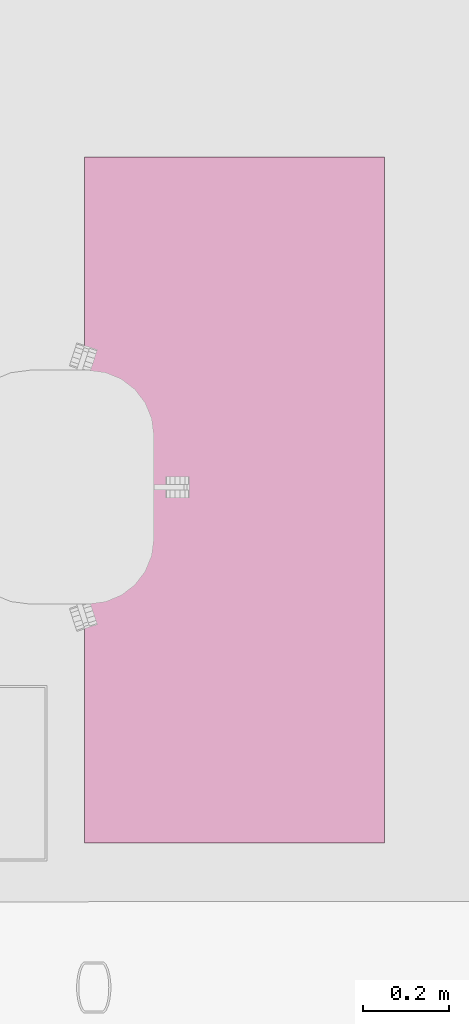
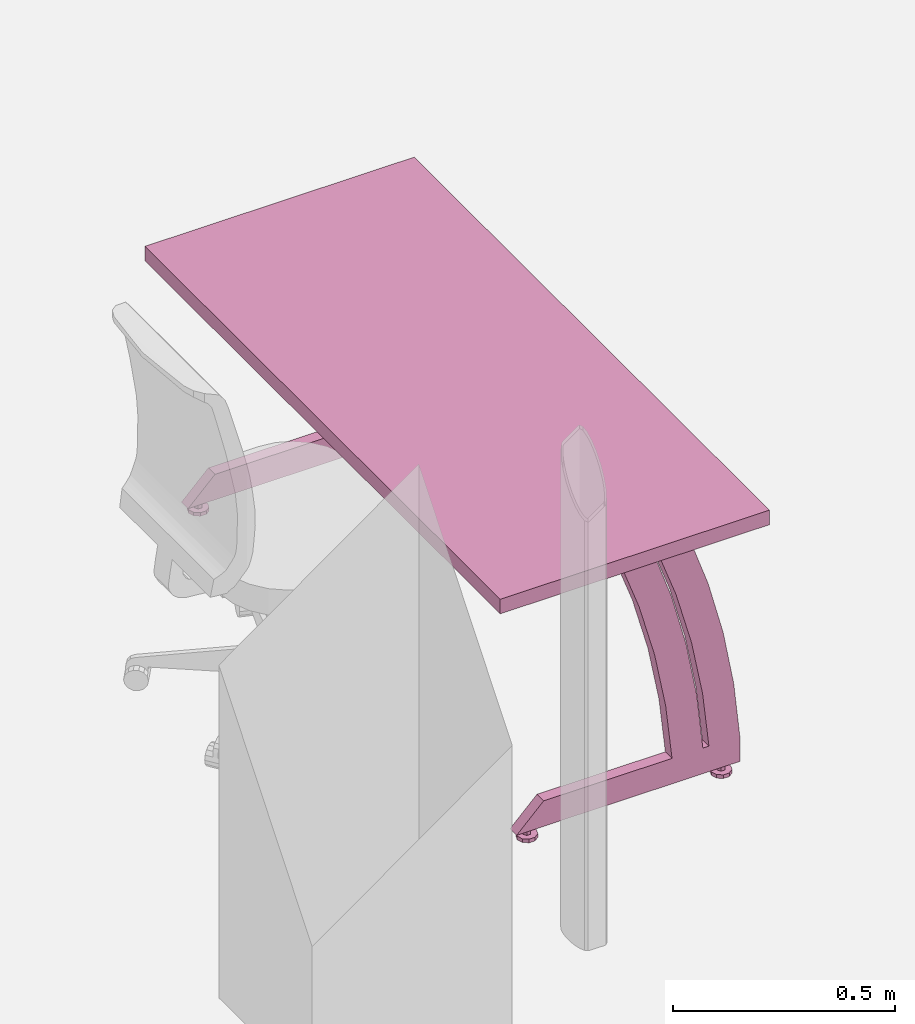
# One storey, part 104 of 128: 1 furnishing.
"""IFC2X3 building model written with IfcOpenShell, lengths in metres."""

from ifc_helpers import new_model, entity, si_unit, converted_unit, derived_unit, direction, frame, origin, place, context, subcontext, project, spatial, faceted_brep, source, transform, mapped, material, type_object, type_shapes, element, save


model = new_model("IFC2X3")

# Units and contexts
model_context = context("Model", 3, precision=1e-05, world=origin(), true_north=direction((6.123031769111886e-17, 1.0)))
body_context = subcontext(model_context, "Body", "Model", "MODEL_VIEW")
ifc_project = project(units=[si_unit("LENGTHUNIT", "METRE"), si_unit("AREAUNIT", "SQUARE_METRE"), converted_unit("PLANEANGLEUNIT", "DEGREE", entity("IfcPlaneAngleMeasure", 0.017453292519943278), si_unit("PLANEANGLEUNIT", "RADIAN"), dimensions=[0, 0, 0, 0, 0, 0, 0]), derived_unit("THERMALTRANSMITTANCEUNIT", [(si_unit("MASSUNIT", "GRAM", prefix="KILO"), 1), (si_unit("THERMODYNAMICTEMPERATUREUNIT", "KELVIN"), -1), (si_unit("TIMEUNIT", "SECOND"), -3)])], contexts=[model_context])

# Site, building, storey
site_placement = place(None, origin())
site = spatial("IfcSite", under=ifc_project, at=site_placement, Name="Default", CompositionType="ELEMENT")
building_placement = place(site_placement, origin())
building = spatial("IfcBuilding", under=site, at=building_placement, CompositionType="ELEMENT")
storey_placement = place(building_placement, origin())
storey = spatial("IfcBuildingStorey", under=building, at=storey_placement, Name="00_RDC CAF", CompositionType="ELEMENT", Elevation=2.4982504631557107e-13)

# Furnishing
ifc_material = material(Name="ARC - Mo - Blanc")
furniture_type = type_object("IfcFurnitureType", Name="Mo_Bureau:Mo_Bureau_1600x700mm", AssemblyPlace="NOTDEFINED", material=ifc_material)
shared_shape = source(origin(), body_context, "Body", "Brep", [
    faceted_brep([(0.0599999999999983, -0.5962325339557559, 0.0), (0.03622358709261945, -0.5885071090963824, 0.0), (0.040764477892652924, -0.5822571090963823, 0.0), (0.04530536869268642, -0.5760071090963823, 0.0), (0.0526526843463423, -0.5736198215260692, 0.0), (0.059999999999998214, -0.571232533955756, 0.0), (0.06734731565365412, -0.573619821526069, 0.0), (0.036223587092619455, -0.596232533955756, 0.0), (0.03622358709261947, -0.6039579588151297, 0.0), (0.040764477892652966, -0.6102079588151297, 0.0), (0.045305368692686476, -0.6164579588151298, 0.0), (0.052652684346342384, -0.6188452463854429, 0.0), (0.0599999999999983, -0.621232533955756, 0.0), (0.07469463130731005, -0.5760071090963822, 0.0), (0.07923552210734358, -0.5822571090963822, 0.0), (0.0837764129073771, -0.5885071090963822, 0.0), (0.08377641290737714, -0.5962325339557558, 0.0), (0.06734731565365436, -0.6188452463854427, 0.0), (0.07469463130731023, -0.6164579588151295, 0.0), (0.07923552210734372, -0.6102079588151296, 0.0), (0.08377641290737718, -0.6039579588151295, 0.0), (0.0599999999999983, -0.5962325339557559, 0.024999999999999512), (0.05999999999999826, -0.5862325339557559, 0.024999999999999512), (0.05133974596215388, -0.5912325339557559, 0.024999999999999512), (0.05133974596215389, -0.6012325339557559, 0.024999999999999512), (0.0599999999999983, -0.606232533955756, 0.024999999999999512), (0.06866025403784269, -0.5912325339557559, 0.024999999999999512), (0.06866025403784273, -0.6012325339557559, 0.024999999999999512), (0.05133974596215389, -0.6012325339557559, 0.01000000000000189), (0.0599999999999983, -0.606232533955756, 0.01000000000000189), (0.05133974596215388, -0.5912325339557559, 0.01000000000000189), (0.05999999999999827, -0.5862325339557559, 0.01000000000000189), (0.06866025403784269, -0.5912325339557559, 0.01000000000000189), (0.06866025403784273, -0.6012325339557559, 0.01000000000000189), (0.05999999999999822, -0.571232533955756, 0.01000000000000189), (0.05554606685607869, -0.57267970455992, 0.01000000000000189), (0.05109213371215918, -0.574126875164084, 0.01000000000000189), (0.04530536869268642, -0.5760071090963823, 0.01000000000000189), (0.06734731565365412, -0.573619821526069, 0.01000000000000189), (0.07469463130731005, -0.5760071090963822, 0.01000000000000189), (0.07923552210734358, -0.5822571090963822, 0.01000000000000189), (0.0837764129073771, -0.5885071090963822, 0.01000000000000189), (0.08377641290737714, -0.5962325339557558, 0.01000000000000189), (0.08377641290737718, -0.6039579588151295, 0.01000000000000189), (0.07923552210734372, -0.6102079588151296, 0.01000000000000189), (0.07469463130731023, -0.6164579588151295, 0.01000000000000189), (0.06890786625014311, -0.6183381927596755, 0.01000000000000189), (0.06445393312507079, -0.6197853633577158, 0.01000000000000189), (0.0599999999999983, -0.621232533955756, 0.01000000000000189), (0.052652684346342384, -0.6188452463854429, 0.01000000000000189), (0.045305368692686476, -0.6164579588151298, 0.01000000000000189), (0.03622358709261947, -0.6039579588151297, 0.01000000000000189), (0.04076447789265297, -0.6102079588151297, 0.01000000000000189), (0.04076447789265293, -0.5822571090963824, 0.01000000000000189), (0.03622358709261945, -0.5885071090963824, 0.01000000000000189), (0.03622358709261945, -0.5962325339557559, 0.01000000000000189)], [[[0, 1, 2]], [[0, 2, 3]], [[0, 3, 4]], [[0, 4, 5]], [[0, 5, 6]], [[0, 7, 1]], [[0, 8, 7]], [[0, 9, 8]], [[0, 10, 9]], [[0, 11, 10]], [[0, 12, 11]], [[0, 6, 13]], [[0, 13, 14]], [[0, 14, 15]], [[0, 15, 16]], [[0, 17, 12]], [[0, 18, 17]], [[0, 19, 18]], [[0, 20, 19]], [[0, 16, 20]], [[21, 22, 23]], [[23, 24, 21]], [[24, 25, 21]], [[21, 26, 22]], [[25, 27, 21]], [[26, 21, 27]], [[25, 24, 28, 29]], [[24, 23, 30, 28]], [[23, 22, 31, 30]], [[22, 26, 32, 31]], [[26, 27, 33, 32]], [[27, 25, 29, 33]], [[31, 34, 35]], [[31, 35, 36]], [[31, 36, 37]], [[31, 37, 30]], [[31, 38, 34]], [[31, 39, 38]], [[32, 39, 31]], [[32, 40, 39]], [[32, 41, 40]], [[32, 42, 41]], [[32, 43, 42]], [[32, 33, 43]], [[33, 44, 43]], [[33, 45, 44]], [[33, 29, 45]], [[29, 46, 45]], [[29, 47, 46]], [[29, 48, 47]], [[29, 49, 48]], [[29, 50, 49]], [[29, 28, 50]], [[30, 51, 28]], [[28, 51, 52]], [[28, 52, 50]], [[30, 37, 53]], [[30, 53, 54]], [[30, 54, 55]], [[30, 55, 51]], [[11, 12, 48, 49, 50, 10]], [[8, 9, 10, 50, 52, 51]], [[7, 8, 51, 55, 54, 1]], [[3, 37, 36, 35, 34, 5, 4]], [[54, 53, 37, 3, 2, 1]], [[6, 5, 34, 38, 39, 13]], [[15, 14, 13, 39, 40, 41]], [[16, 15, 41, 42, 43, 20]], [[18, 45, 46, 47, 48, 12, 17]], [[43, 44, 45, 18, 19, 20]]]),
    faceted_brep([(0.0599999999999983, -0.09132706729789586, 0.0), (0.03622358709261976, -0.08360164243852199, 0.0), (0.04076447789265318, -0.07735164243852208, 0.0), (0.045305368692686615, -0.07110164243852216, 0.0), (0.05265268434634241, -0.06871435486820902, 0.0), (0.059999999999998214, -0.06632706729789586, 0.0), (0.06734731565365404, -0.06871435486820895, 0.0), (0.03622358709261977, -0.09132706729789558, 0.0), (0.03622358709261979, -0.09905249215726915, 0.0), (0.040764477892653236, -0.10530249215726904, 0.0), (0.045305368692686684, -0.11155249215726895, 0.0), (0.05265268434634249, -0.11393977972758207, 0.0), (0.0599999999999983, -0.11632706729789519, 0.0), (0.07469463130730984, -0.07110164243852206, 0.0), (0.0792355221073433, -0.07735164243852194, 0.0), (0.08377641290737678, -0.08360164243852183, 0.0), (0.08377641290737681, -0.09132706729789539, 0.0), (0.06734731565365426, -0.11393977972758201, 0.0), (0.07469463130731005, -0.11155249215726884, 0.0), (0.07923552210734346, -0.1053024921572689, 0.0), (0.08377641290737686, -0.09905249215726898, 0.0), (0.0599999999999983, -0.09132706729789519, 0.024999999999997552), (0.05999999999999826, -0.08132706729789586, 0.024999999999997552), (0.051339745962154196, -0.08632706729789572, 0.024999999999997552), (0.05133974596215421, -0.09632706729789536, 0.024999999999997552), (0.0599999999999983, -0.10132706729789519, 0.024999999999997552), (0.06866025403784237, -0.08632706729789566, 0.024999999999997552), (0.06866025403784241, -0.09632706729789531, 0.024999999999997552), (0.05133974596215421, -0.09632706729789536, 0.009999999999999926), (0.0599999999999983, -0.10132706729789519, 0.009999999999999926), (0.051339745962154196, -0.08632706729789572, 0.009999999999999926), (0.05999999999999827, -0.08132706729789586, 0.009999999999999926), (0.06866025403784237, -0.08632706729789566, 0.009999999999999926), (0.06866025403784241, -0.09632706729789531, 0.009999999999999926), (0.059999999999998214, -0.06632706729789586, 0.009999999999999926), (0.05554606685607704, -0.06777423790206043, 0.009999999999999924), (0.05109213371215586, -0.06922140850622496, 0.009999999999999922), (0.045305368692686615, -0.07110164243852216, 0.009999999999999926), (0.06734731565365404, -0.06871435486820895, 0.009999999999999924), (0.07469463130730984, -0.07110164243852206, 0.009999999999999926), (0.0792355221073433, -0.07735164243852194, 0.009999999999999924), (0.08377641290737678, -0.08360164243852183, 0.009999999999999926), (0.08377641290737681, -0.0913270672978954, 0.009999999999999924), (0.08377641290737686, -0.09905249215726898, 0.009999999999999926), (0.07923552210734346, -0.1053024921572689, 0.009999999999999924), (0.07469463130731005, -0.11155249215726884, 0.009999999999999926), (0.06890786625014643, -0.11343272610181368, 0.009999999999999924), (0.06445393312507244, -0.11487989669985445, 0.009999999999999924), (0.0599999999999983, -0.11632706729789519, 0.009999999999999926), (0.05265268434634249, -0.11393977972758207, 0.009999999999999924), (0.045305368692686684, -0.11155249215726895, 0.009999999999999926), (0.03622358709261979, -0.09905249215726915, 0.009999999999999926), (0.040764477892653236, -0.10530249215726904, 0.009999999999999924), (0.04076447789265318, -0.07735164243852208, 0.009999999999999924), (0.03622358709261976, -0.08360164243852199, 0.009999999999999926), (0.03622358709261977, -0.09132706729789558, 0.009999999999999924)], [[[0, 1, 2]], [[0, 2, 3]], [[0, 3, 4]], [[0, 4, 5]], [[0, 5, 6]], [[0, 7, 1]], [[0, 8, 7]], [[0, 9, 8]], [[0, 10, 9]], [[0, 11, 10]], [[0, 12, 11]], [[0, 6, 13]], [[0, 13, 14]], [[0, 14, 15]], [[0, 15, 16]], [[0, 17, 12]], [[0, 18, 17]], [[0, 19, 18]], [[0, 20, 19]], [[0, 16, 20]], [[21, 22, 23]], [[23, 24, 21]], [[24, 25, 21]], [[21, 26, 22]], [[25, 27, 21]], [[26, 21, 27]], [[25, 24, 28, 29]], [[24, 23, 30, 28]], [[23, 22, 31, 30]], [[22, 26, 32, 31]], [[26, 27, 33, 32]], [[27, 25, 29, 33]], [[31, 34, 35]], [[31, 35, 36]], [[31, 36, 37]], [[31, 37, 30]], [[31, 38, 34]], [[31, 39, 38]], [[32, 39, 31]], [[32, 40, 39]], [[32, 41, 40]], [[32, 42, 41]], [[32, 43, 42]], [[32, 33, 43]], [[33, 44, 43]], [[33, 45, 44]], [[33, 29, 45]], [[29, 46, 45]], [[29, 47, 46]], [[29, 48, 47]], [[29, 49, 48]], [[29, 50, 49]], [[29, 28, 50]], [[30, 51, 28]], [[28, 51, 52]], [[28, 52, 50]], [[30, 37, 53]], [[30, 53, 54]], [[30, 54, 55]], [[30, 55, 51]], [[11, 12, 48, 49, 50, 10]], [[8, 9, 10, 50, 52, 51]], [[7, 8, 51, 55, 54, 1]], [[3, 37, 36, 35, 34, 5, 4]], [[54, 53, 37, 3, 2, 1]], [[6, 5, 34, 38, 39, 13]], [[15, 14, 13, 39, 40, 41]], [[16, 15, 41, 42, 43, 20]], [[18, 45, 46, 47, 48, 12, 17]], [[43, 44, 45, 18, 19, 20]]]),
    faceted_brep([(0.0449999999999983, -0.22742160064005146, 0.09499999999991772), (0.0449999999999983, -0.24409269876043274, 0.24614112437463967), (0.0449999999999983, -0.2727144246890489, 0.395480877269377), (0.0449999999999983, -0.3131059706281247, 0.5420758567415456), (0.0449999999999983, -0.36501217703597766, 0.6849999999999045), (0.0449999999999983, -0.27887211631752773, 0.684999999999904), (0.0449999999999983, -0.22919246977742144, 0.5416912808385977), (0.0449999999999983, -0.19055436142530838, 0.39501969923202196), (0.0449999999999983, -0.1631815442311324, 0.24583462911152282), (0.0449999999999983, -0.14723253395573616, 0.09499999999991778), (0.07499999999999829, -0.3650121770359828, 0.6849999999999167), (0.07499999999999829, -0.3131059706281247, 0.5420758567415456), (0.07499999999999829, -0.2727144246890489, 0.395480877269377), (0.07499999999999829, -0.24409269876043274, 0.24614112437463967), (0.07499999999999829, -0.22742160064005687, 0.09499999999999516), (0.07499999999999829, -0.14723253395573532, 0.09499999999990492), (0.07499999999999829, -0.1631815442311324, 0.24583462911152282), (0.07499999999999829, -0.19055436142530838, 0.39501969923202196), (0.07499999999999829, -0.22919246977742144, 0.5416912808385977), (0.07499999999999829, -0.278872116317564, 0.6849999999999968)], [[[0, 1, 2, 3, 4, 5, 6, 7, 8, 9]], [[10, 11, 12, 13, 14, 15, 16, 17, 18, 19]], [[10, 19, 5, 4]], [[3, 11, 10, 4]], [[2, 12, 11, 3]], [[0, 14, 13, 1]], [[12, 2, 1, 13]], [[15, 14, 0, 9]], [[8, 7, 17, 16]], [[15, 9, 8, 16]], [[6, 5, 19, 18]], [[6, 18, 17, 7]]]),
    faceted_brep([(0.0449999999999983, -0.13142160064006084, 0.09500000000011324), (0.0449999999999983, -0.14809269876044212, 0.24614112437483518), (0.0449999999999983, -0.1767144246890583, 0.3954808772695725), (0.0449999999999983, -0.21710597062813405, 0.5420758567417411), (0.0449999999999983, -0.269012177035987, 0.6850000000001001), (0.0449999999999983, -0.18287211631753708, 0.6850000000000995), (0.0449999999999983, -0.13319246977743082, 0.5416912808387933), (0.0449999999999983, -0.09455436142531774, 0.39501969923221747), (0.0449999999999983, -0.06718154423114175, 0.24583462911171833), (0.0449999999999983, -0.05123253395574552, 0.0950000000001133), (0.07499999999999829, -0.2690121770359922, 0.6850000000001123), (0.07499999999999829, -0.21710597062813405, 0.5420758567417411), (0.07499999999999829, -0.1767144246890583, 0.3954808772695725), (0.07499999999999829, -0.14809269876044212, 0.24614112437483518), (0.07499999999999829, -0.13142160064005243, 0.09499999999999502), (0.07499999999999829, -0.0512325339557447, 0.09500000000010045), (0.07499999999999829, -0.06718154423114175, 0.24583462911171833), (0.07499999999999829, -0.09455436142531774, 0.39501969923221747), (0.07499999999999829, -0.13319246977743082, 0.5416912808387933), (0.07499999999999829, -0.1828721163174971, 0.684999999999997)], [[[0, 1, 2, 3, 4, 5, 6, 7, 8, 9]], [[10, 11, 12, 13, 14, 15, 16, 17, 18, 19]], [[10, 19, 5, 4]], [[3, 11, 10, 4]], [[2, 12, 11, 3]], [[0, 14, 13, 1]], [[12, 2, 1, 13]], [[15, 14, 0, 9]], [[8, 7, 17, 16]], [[15, 9, 8, 16]], [[6, 5, 19, 18]], [[6, 18, 17, 7]]]),
    faceted_brep([(0.0449999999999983, -0.05123253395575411, 0.024999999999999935), (0.0449999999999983, -0.6312325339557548, 0.024999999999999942), (0.0449999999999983, -0.5612325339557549, 0.09499999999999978), (0.0449999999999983, -0.05123253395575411, 0.09499999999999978), (0.07499999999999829, -0.05123253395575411, 0.024999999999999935), (0.07499999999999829, -0.05123253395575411, 0.09499999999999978), (0.07499999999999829, -0.5612325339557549, 0.09499999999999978), (0.07499999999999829, -0.6312325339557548, 0.024999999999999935)], [[[0, 1, 2, 3]], [[4, 5, 6, 7]], [[5, 4, 0, 3]], [[6, 5, 3, 2]], [[4, 7, 1, 0]], [[7, 6, 2, 1]]]),
    faceted_brep([(1.5399999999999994, -0.5962325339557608, 0.0), (1.5162235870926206, -0.5885071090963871, 0.0), (1.5207644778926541, -0.5822571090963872, 0.0), (1.5253053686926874, -0.5760071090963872, 0.0), (1.5326526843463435, -0.5736198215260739, 0.0), (1.5399999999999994, -0.5712325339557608, 0.0), (1.5473473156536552, -0.5736198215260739, 0.0), (1.5162235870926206, -0.5962325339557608, 0.0), (1.5162235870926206, -0.6039579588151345, 0.0), (1.5207644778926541, -0.6102079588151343, 0.0), (1.5253053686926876, -0.6164579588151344, 0.0), (1.5326526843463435, -0.6188452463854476, 0.0), (1.5399999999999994, -0.6212325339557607, 0.0), (1.5546946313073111, -0.576007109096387, 0.0), (1.5592355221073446, -0.5822571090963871, 0.0), (1.5637764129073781, -0.5885071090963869, 0.0), (1.5637764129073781, -0.5962325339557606, 0.0), (1.5473473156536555, -0.6188452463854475, 0.0), (1.5546946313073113, -0.6164579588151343, 0.0), (1.5592355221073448, -0.6102079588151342, 0.0), (1.5637764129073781, -0.6039579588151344, 0.0), (1.5399999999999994, -0.5962325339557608, 0.024999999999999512), (1.5399999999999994, -0.5862325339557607, 0.024999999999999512), (1.531339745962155, -0.5912325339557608, 0.024999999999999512), (1.531339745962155, -0.6012325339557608, 0.024999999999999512), (1.5399999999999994, -0.6062325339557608, 0.024999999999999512), (1.548660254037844, -0.5912325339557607, 0.024999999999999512), (1.548660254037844, -0.6012325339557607, 0.024999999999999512), (1.531339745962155, -0.6012325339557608, 0.01000000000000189), (1.5399999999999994, -0.6062325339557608, 0.01000000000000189), (1.531339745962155, -0.5912325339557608, 0.01000000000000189), (1.5399999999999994, -0.5862325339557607, 0.01000000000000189), (1.548660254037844, -0.5912325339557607, 0.01000000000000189), (1.548660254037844, -0.6012325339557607, 0.01000000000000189), (1.5399999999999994, -0.5712325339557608, 0.01000000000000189), (1.5355460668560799, -0.5726797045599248, 0.01000000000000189), (1.5310921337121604, -0.5741268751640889, 0.01000000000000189), (1.5253053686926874, -0.5760071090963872, 0.01000000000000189), (1.5473473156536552, -0.5736198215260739, 0.01000000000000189), (1.5546946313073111, -0.576007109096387, 0.01000000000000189), (1.5592355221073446, -0.5822571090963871, 0.01000000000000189), (1.5637764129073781, -0.5885071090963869, 0.01000000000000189), (1.5637764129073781, -0.5962325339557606, 0.01000000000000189), (1.5637764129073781, -0.6039579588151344, 0.01000000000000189), (1.5592355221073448, -0.6102079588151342, 0.01000000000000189), (1.5546946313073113, -0.6164579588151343, 0.01000000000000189), (1.5489078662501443, -0.6183381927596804, 0.01000000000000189), (1.544453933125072, -0.6197853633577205, 0.01000000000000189), (1.5399999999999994, -0.6212325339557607, 0.01000000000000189), (1.5326526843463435, -0.6188452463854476, 0.01000000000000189), (1.5253053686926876, -0.6164579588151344, 0.01000000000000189), (1.5162235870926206, -0.6039579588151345, 0.01000000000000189), (1.5207644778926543, -0.6102079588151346, 0.01000000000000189), (1.5207644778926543, -0.5822571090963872, 0.01000000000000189), (1.5162235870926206, -0.5885071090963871, 0.01000000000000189), (1.5162235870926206, -0.5962325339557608, 0.01000000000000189)], [[[0, 1, 2]], [[0, 2, 3]], [[0, 3, 4]], [[0, 4, 5]], [[0, 5, 6]], [[0, 7, 1]], [[0, 8, 7]], [[0, 9, 8]], [[0, 10, 9]], [[0, 11, 10]], [[0, 12, 11]], [[0, 6, 13]], [[0, 13, 14]], [[0, 14, 15]], [[0, 15, 16]], [[0, 17, 12]], [[0, 18, 17]], [[0, 19, 18]], [[0, 20, 19]], [[0, 16, 20]], [[21, 22, 23]], [[23, 24, 21]], [[24, 25, 21]], [[21, 26, 22]], [[25, 27, 21]], [[26, 21, 27]], [[25, 24, 28, 29]], [[24, 23, 30, 28]], [[23, 22, 31, 30]], [[22, 26, 32, 31]], [[26, 27, 33, 32]], [[27, 25, 29, 33]], [[31, 34, 35]], [[31, 35, 36]], [[31, 36, 37]], [[31, 37, 30]], [[31, 38, 34]], [[31, 39, 38]], [[32, 39, 31]], [[32, 40, 39]], [[32, 41, 40]], [[32, 42, 41]], [[32, 43, 42]], [[32, 33, 43]], [[33, 44, 43]], [[33, 45, 44]], [[33, 29, 45]], [[29, 46, 45]], [[29, 47, 46]], [[29, 48, 47]], [[29, 49, 48]], [[29, 50, 49]], [[29, 28, 50]], [[30, 51, 28]], [[28, 51, 52]], [[28, 52, 50]], [[30, 37, 53]], [[30, 53, 54]], [[30, 54, 55]], [[30, 55, 51]], [[11, 12, 48, 49, 50, 10]], [[8, 9, 10, 50, 52, 51]], [[7, 8, 51, 55, 54, 1]], [[3, 37, 36, 35, 34, 5, 4]], [[54, 53, 37, 3, 2, 1]], [[6, 5, 34, 38, 39, 13]], [[15, 14, 13, 39, 40, 41]], [[16, 15, 41, 42, 43, 20]], [[18, 45, 46, 47, 48, 12, 17]], [[43, 44, 45, 18, 19, 20]]]),
    faceted_brep([(1.5399999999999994, -0.09132706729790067, 0.0), (1.5162235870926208, -0.08360164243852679, 0.0), (1.5207644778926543, -0.07735164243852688, 0.0), (1.5253053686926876, -0.07110164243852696, 0.0), (1.5326526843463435, -0.06871435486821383, 0.0), (1.5399999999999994, -0.06632706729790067, 0.0), (1.5473473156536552, -0.06871435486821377, 0.0), (1.5162235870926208, -0.09132706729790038, 0.0), (1.5162235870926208, -0.09905249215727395, 0.0), (1.5207644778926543, -0.10530249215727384, 0.0), (1.5253053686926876, -0.11155249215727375, 0.0), (1.5326526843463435, -0.11393977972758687, 0.0), (1.5399999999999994, -0.11632706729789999, 0.0), (1.554694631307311, -0.07110164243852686, 0.0), (1.5592355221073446, -0.07735164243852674, 0.0), (1.563776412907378, -0.08360164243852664, 0.0), (1.563776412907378, -0.09132706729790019, 0.0), (1.5473473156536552, -0.11393977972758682, 0.0), (1.5546946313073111, -0.11155249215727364, 0.0), (1.5592355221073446, -0.10530249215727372, 0.0), (1.563776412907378, -0.09905249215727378, 0.0), (1.5399999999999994, -0.0913270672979, 0.024999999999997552), (1.5399999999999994, -0.08132706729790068, 0.024999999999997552), (1.5313397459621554, -0.08632706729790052, 0.024999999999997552), (1.5313397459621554, -0.09632706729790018, 0.024999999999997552), (1.5399999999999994, -0.10132706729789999, 0.024999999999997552), (1.5486602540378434, -0.08632706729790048, 0.024999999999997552), (1.5486602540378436, -0.09632706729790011, 0.024999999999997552), (1.5313397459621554, -0.09632706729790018, 0.009999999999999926), (1.5399999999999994, -0.10132706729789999, 0.009999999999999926), (1.5313397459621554, -0.08632706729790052, 0.009999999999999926), (1.5399999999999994, -0.08132706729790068, 0.009999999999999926), (1.5486602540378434, -0.08632706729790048, 0.009999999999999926), (1.5486602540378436, -0.09632706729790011, 0.009999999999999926), (1.5399999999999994, -0.06632706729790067, 0.009999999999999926), (1.5355460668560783, -0.06777423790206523, 0.009999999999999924), (1.5310921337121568, -0.06922140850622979, 0.009999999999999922), (1.5253053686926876, -0.07110164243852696, 0.009999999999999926), (1.5473473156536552, -0.06871435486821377, 0.009999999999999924), (1.554694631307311, -0.07110164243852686, 0.009999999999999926), (1.5592355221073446, -0.07735164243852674, 0.009999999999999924), (1.563776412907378, -0.08360164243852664, 0.009999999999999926), (1.563776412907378, -0.09132706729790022, 0.009999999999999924), (1.563776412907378, -0.09905249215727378, 0.009999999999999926), (1.5592355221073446, -0.10530249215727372, 0.009999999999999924), (1.5546946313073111, -0.11155249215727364, 0.009999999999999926), (1.5489078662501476, -0.11343272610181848, 0.009999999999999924), (1.5444539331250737, -0.11487989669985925, 0.009999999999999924), (1.5399999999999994, -0.11632706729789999, 0.009999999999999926), (1.5326526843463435, -0.11393977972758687, 0.009999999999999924), (1.5253053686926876, -0.11155249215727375, 0.009999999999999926), (1.5162235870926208, -0.09905249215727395, 0.009999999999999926), (1.5207644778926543, -0.10530249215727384, 0.009999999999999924), (1.5207644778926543, -0.07735164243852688, 0.009999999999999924), (1.5162235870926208, -0.08360164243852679, 0.009999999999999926), (1.5162235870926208, -0.09132706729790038, 0.009999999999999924)], [[[0, 1, 2]], [[0, 2, 3]], [[0, 3, 4]], [[0, 4, 5]], [[0, 5, 6]], [[0, 7, 1]], [[0, 8, 7]], [[0, 9, 8]], [[0, 10, 9]], [[0, 11, 10]], [[0, 12, 11]], [[0, 6, 13]], [[0, 13, 14]], [[0, 14, 15]], [[0, 15, 16]], [[0, 17, 12]], [[0, 18, 17]], [[0, 19, 18]], [[0, 20, 19]], [[0, 16, 20]], [[21, 22, 23]], [[23, 24, 21]], [[24, 25, 21]], [[21, 26, 22]], [[25, 27, 21]], [[26, 21, 27]], [[25, 24, 28, 29]], [[24, 23, 30, 28]], [[23, 22, 31, 30]], [[22, 26, 32, 31]], [[26, 27, 33, 32]], [[27, 25, 29, 33]], [[31, 34, 35]], [[31, 35, 36]], [[31, 36, 37]], [[31, 37, 30]], [[31, 38, 34]], [[31, 39, 38]], [[32, 39, 31]], [[32, 40, 39]], [[32, 41, 40]], [[32, 42, 41]], [[32, 43, 42]], [[32, 33, 43]], [[33, 44, 43]], [[33, 45, 44]], [[33, 29, 45]], [[29, 46, 45]], [[29, 47, 46]], [[29, 48, 47]], [[29, 49, 48]], [[29, 50, 49]], [[29, 28, 50]], [[30, 51, 28]], [[28, 51, 52]], [[28, 52, 50]], [[30, 37, 53]], [[30, 53, 54]], [[30, 54, 55]], [[30, 55, 51]], [[11, 12, 48, 49, 50, 10]], [[8, 9, 10, 50, 52, 51]], [[7, 8, 51, 55, 54, 1]], [[3, 37, 36, 35, 34, 5, 4]], [[54, 53, 37, 3, 2, 1]], [[6, 5, 34, 38, 39, 13]], [[15, 14, 13, 39, 40, 41]], [[16, 15, 41, 42, 43, 20]], [[18, 45, 46, 47, 48, 12, 17]], [[43, 44, 45, 18, 19, 20]]]),
    faceted_brep([(1.5249999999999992, -0.22742160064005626, 0.09499999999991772), (1.5249999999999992, -0.24409269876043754, 0.24614112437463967), (1.5249999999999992, -0.2727144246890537, 0.395480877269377), (1.5249999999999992, -0.3131059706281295, 0.5420758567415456), (1.5249999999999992, -0.3650121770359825, 0.6849999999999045), (1.5249999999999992, -0.2788721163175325, 0.684999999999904), (1.5249999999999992, -0.22919246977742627, 0.5416912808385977), (1.5249999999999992, -0.19055436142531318, 0.39501969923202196), (1.5249999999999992, -0.1631815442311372, 0.24583462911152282), (1.5249999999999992, -0.14723253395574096, 0.09499999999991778), (1.5549999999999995, -0.3650121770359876, 0.6849999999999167), (1.5549999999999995, -0.3131059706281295, 0.5420758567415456), (1.5549999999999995, -0.2727144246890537, 0.395480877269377), (1.5549999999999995, -0.24409269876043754, 0.24614112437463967), (1.5549999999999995, -0.22742160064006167, 0.09499999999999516), (1.5549999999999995, -0.14723253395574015, 0.09499999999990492), (1.5549999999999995, -0.1631815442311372, 0.24583462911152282), (1.5549999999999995, -0.19055436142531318, 0.39501969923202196), (1.5549999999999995, -0.22919246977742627, 0.5416912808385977), (1.5549999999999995, -0.27887211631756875, 0.6849999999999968)], [[[0, 1, 2, 3, 4, 5, 6, 7, 8, 9]], [[10, 11, 12, 13, 14, 15, 16, 17, 18, 19]], [[10, 19, 5, 4]], [[3, 11, 10, 4]], [[2, 12, 11, 3]], [[0, 14, 13, 1]], [[12, 2, 1, 13]], [[15, 14, 0, 9]], [[8, 7, 17, 16]], [[15, 9, 8, 16]], [[6, 5, 19, 18]], [[6, 18, 17, 7]]]),
    faceted_brep([(1.5249999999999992, -0.13142160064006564, 0.09500000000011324), (1.5249999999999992, -0.14809269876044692, 0.24614112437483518), (1.5249999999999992, -0.1767144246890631, 0.3954808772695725), (1.5249999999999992, -0.21710597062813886, 0.5420758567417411), (1.5249999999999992, -0.26901217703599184, 0.6850000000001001), (1.5249999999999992, -0.18287211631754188, 0.6850000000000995), (1.5249999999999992, -0.13319246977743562, 0.5416912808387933), (1.5249999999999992, -0.09455436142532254, 0.39501969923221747), (1.5249999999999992, -0.06718154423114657, 0.24583462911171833), (1.5249999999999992, -0.05123253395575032, 0.0950000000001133), (1.5549999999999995, -0.269012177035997, 0.6850000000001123), (1.5549999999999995, -0.21710597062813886, 0.5420758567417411), (1.5549999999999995, -0.1767144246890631, 0.3954808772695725), (1.5549999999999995, -0.14809269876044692, 0.24614112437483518), (1.5549999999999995, -0.13142160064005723, 0.09499999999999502), (1.5549999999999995, -0.05123253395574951, 0.09500000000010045), (1.5549999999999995, -0.06718154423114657, 0.24583462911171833), (1.5549999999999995, -0.09455436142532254, 0.39501969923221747), (1.5549999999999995, -0.13319246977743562, 0.5416912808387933), (1.5549999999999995, -0.18287211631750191, 0.684999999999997)], [[[0, 1, 2, 3, 4, 5, 6, 7, 8, 9]], [[10, 11, 12, 13, 14, 15, 16, 17, 18, 19]], [[10, 19, 5, 4]], [[3, 11, 10, 4]], [[2, 12, 11, 3]], [[0, 14, 13, 1]], [[12, 2, 1, 13]], [[15, 14, 0, 9]], [[8, 7, 17, 16]], [[15, 9, 8, 16]], [[6, 5, 19, 18]], [[6, 18, 17, 7]]]),
    faceted_brep([(1.5249999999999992, -0.05123253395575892, 0.024999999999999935), (1.5249999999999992, -0.6312325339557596, 0.024999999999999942), (1.5249999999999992, -0.5612325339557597, 0.09499999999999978), (1.5249999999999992, -0.05123253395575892, 0.09499999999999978), (1.5549999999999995, -0.05123253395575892, 0.024999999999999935), (1.5549999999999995, -0.05123253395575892, 0.09499999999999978), (1.5549999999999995, -0.5612325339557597, 0.09499999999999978), (1.5549999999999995, -0.6312325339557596, 0.024999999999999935)], [[[0, 1, 2, 3]], [[4, 5, 6, 7]], [[5, 4, 0, 3]], [[6, 5, 3, 2]], [[4, 7, 1, 0]], [[7, 6, 2, 1]]]),
    faceted_brep([(0.0, -0.6999999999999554, 0.685), (0.0, 0.0, 0.685), (1.599999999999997, 0.0, 0.684999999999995), (1.599999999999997, -0.6999999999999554, 0.684999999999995), (0.0, -0.6999999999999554, 0.7250000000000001), (1.599999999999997, -0.6999999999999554, 0.7249999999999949), (1.599999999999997, 0.0, 0.7249999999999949), (0.0, 0.0, 0.7250000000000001)], [[[0, 1, 2, 3]], [[4, 5, 6, 7]], [[5, 4, 0, 3]], [[6, 5, 3, 2]], [[7, 6, 2, 1]], [[4, 7, 1, 0]]]),
])
type_shapes(furniture_type, [shared_shape])
furnishing_placement = place(storey_placement, frame((37.98273748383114, 138.4839976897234, 0.0), z_axis=(0.0, 0.0, 1.0), x_axis=(0.0, -1.0, 0.0)))
element("IfcFurnishingElement", 1, at=furnishing_placement, inside=storey, type_object=furniture_type, material=ifc_material, Name="Mo_Bureau:Mo_Bureau_1600x700mm", ObjectType="Mo_Bureau:Mo_Bureau_1600x700mm", context=body_context, shape_type="MappedRepresentation", body=[
    mapped(shared_shape, transform((0.0, 0.0, 0.0), scale=1.0)),
])

save(model, "model.ifc")
